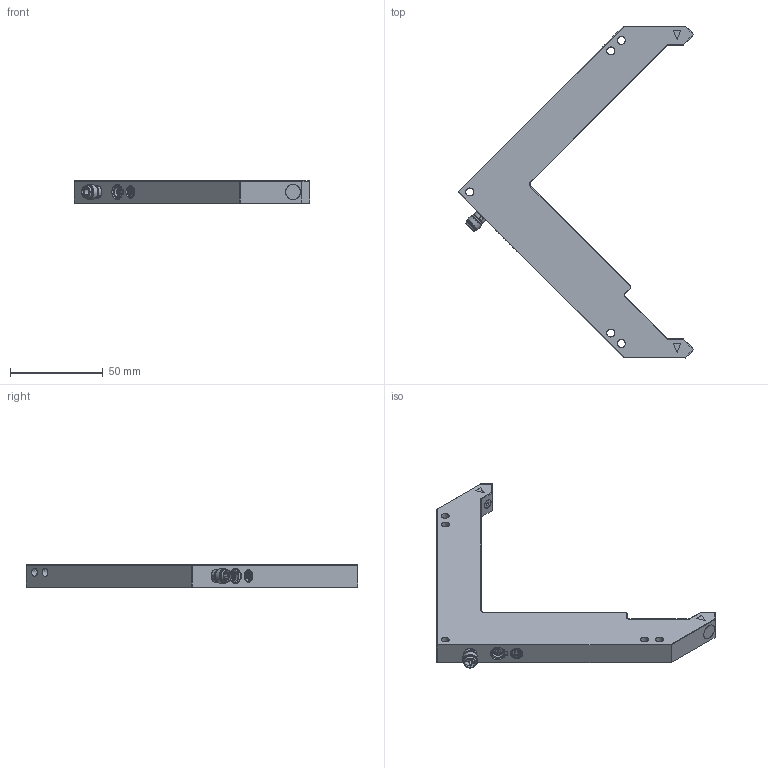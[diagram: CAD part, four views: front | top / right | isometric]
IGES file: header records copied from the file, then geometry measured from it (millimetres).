
Start section: C
Global section: file name: OG120L.x-xxxx.7xL.igs; native system: By Siemens PLM Incorporated; preprocessor: XPlus GENERIC/IGES 19.0.9; author: Author; organization: Title; date: 20200918.090225; units: millimetre
Bounding box: 127.03 x 178.9 x 12 mm (x, y, z)
Surface area: 22278.5 mm2 (no closed solid volume)
Topology: 0 solids, 0 shells, 196 faces, 1015 edges, 1001 vertices
Faces by surface type: bspline 196
